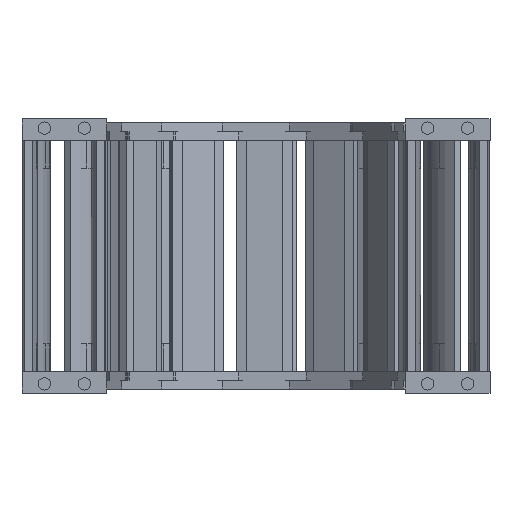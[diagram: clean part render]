
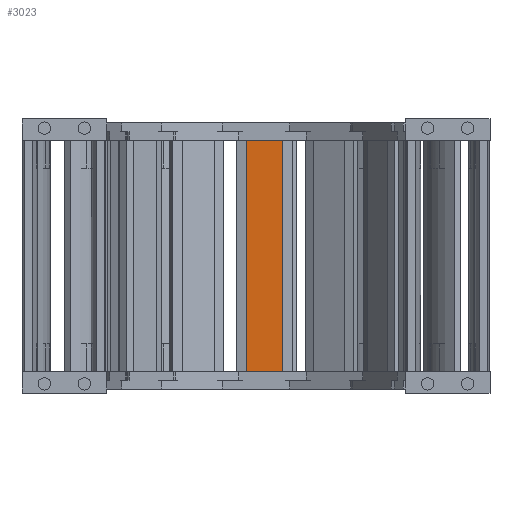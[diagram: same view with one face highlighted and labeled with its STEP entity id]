
A CAD part, left-side view. The second image highlights one B-rep face of the part: STEP entity #3023.
In plain terms, the highlighted planar face has unit normal (-0.999, 0.054, 0) as drawn and (0, 1, 0) by its records, which use the part's own axes.
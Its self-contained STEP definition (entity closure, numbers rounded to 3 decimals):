
#2766=DIRECTION('',(1.,0.,0.));
#2767=VECTOR('',#2766,23.);
#2768=CARTESIAN_POINT('',(-11.5,3.,137.8));
#2769=LINE('',#2768,#2767);
#2815=DIRECTION('',(0.,0.,-1.));
#2816=VECTOR('',#2815,150.3);
#2817=CARTESIAN_POINT('',(11.5,3.,137.8));
#2818=LINE('',#2817,#2816);
#2837=DIRECTION('',(-1.,0.,0.));
#2838=VECTOR('',#2837,23.);
#2839=CARTESIAN_POINT('',(11.5,3.,-12.5));
#2840=LINE('',#2839,#2838);
#2851=DIRECTION('',(0.,0.,-1.));
#2852=VECTOR('',#2851,150.3);
#2853=CARTESIAN_POINT('',(-11.5,3.,137.8));
#2854=LINE('',#2853,#2852);
#2878=CARTESIAN_POINT('',(11.5,3.,137.8));
#2879=VERTEX_POINT('',#2878);
#2882=CARTESIAN_POINT('',(-11.5,3.,137.8));
#2883=VERTEX_POINT('',#2882);
#2890=CARTESIAN_POINT('',(11.5,3.,-12.5));
#2891=VERTEX_POINT('',#2890);
#2892=CARTESIAN_POINT('',(-11.5,3.,-12.5));
#2893=VERTEX_POINT('',#2892);
#3011=CARTESIAN_POINT('',(15.5,3.,87.8));
#3012=DIRECTION('',(0.,1.,0.));
#3013=DIRECTION('',(-1.,0.,0.));
#3014=AXIS2_PLACEMENT_3D('',#3011,#3012,#3013);
#3015=PLANE('',#3014);
#3017=ORIENTED_EDGE('',*,*,#3016,.T.);
#3018=ORIENTED_EDGE('',*,*,#2995,.F.);
#3019=ORIENTED_EDGE('',*,*,#2975,.F.);
#3020=ORIENTED_EDGE('',*,*,#2907,.F.);
#3021=EDGE_LOOP('',(#3017,#3018,#3019,#3020));
#3022=FACE_OUTER_BOUND('',#3021,.F.);
#3023=ADVANCED_FACE('',(#3022),#3015,.T.);
#2907=EDGE_CURVE('',#2883,#2879,#2769,.T.);
#2975=EDGE_CURVE('',#2879,#2891,#2818,.T.);
#2995=EDGE_CURVE('',#2891,#2893,#2840,.T.);
#3016=EDGE_CURVE('',#2883,#2893,#2854,.T.);
